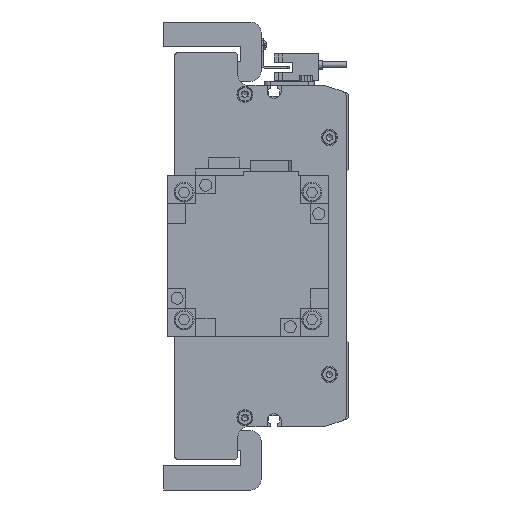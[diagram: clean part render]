
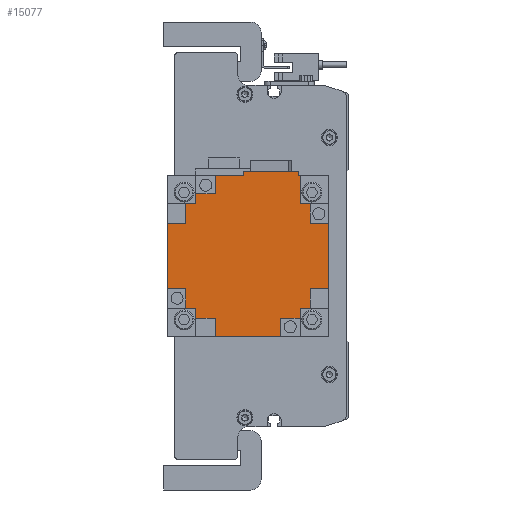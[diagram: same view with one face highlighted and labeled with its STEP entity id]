
A CAD part, left-side view. The second image highlights one B-rep face of the part: STEP entity #15077.
In plain terms, the highlighted planar face has unit normal (-1, 0, 0) as drawn and (0, 1, 0) by its records, which use the part's own axes.
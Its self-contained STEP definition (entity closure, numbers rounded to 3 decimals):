
#1516=ORIENTED_EDGE('',*,*,#5680,.T.);
#1517=ORIENTED_EDGE('',*,*,#5681,.T.);
#1518=ORIENTED_EDGE('',*,*,#5682,.T.);
#1519=ORIENTED_EDGE('',*,*,#5683,.T.);
#1520=ORIENTED_EDGE('',*,*,#5684,.T.);
#1521=ORIENTED_EDGE('',*,*,#5685,.F.);
#1522=ORIENTED_EDGE('',*,*,#5686,.F.);
#1523=ORIENTED_EDGE('',*,*,#5687,.T.);
#1524=ORIENTED_EDGE('',*,*,#5688,.T.);
#1525=ORIENTED_EDGE('',*,*,#5689,.T.);
#1526=ORIENTED_EDGE('',*,*,#5690,.T.);
#1527=ORIENTED_EDGE('',*,*,#5691,.T.);
#1528=ORIENTED_EDGE('',*,*,#5692,.F.);
#1529=ORIENTED_EDGE('',*,*,#5693,.F.);
#1530=ORIENTED_EDGE('',*,*,#5694,.T.);
#1531=ORIENTED_EDGE('',*,*,#5695,.T.);
#1532=ORIENTED_EDGE('',*,*,#5696,.T.);
#1533=ORIENTED_EDGE('',*,*,#5697,.T.);
#1534=ORIENTED_EDGE('',*,*,#5698,.T.);
#1535=ORIENTED_EDGE('',*,*,#5699,.F.);
#1536=ORIENTED_EDGE('',*,*,#5700,.F.);
#1537=ORIENTED_EDGE('',*,*,#5671,.T.);
#1538=ORIENTED_EDGE('',*,*,#5701,.F.);
#1539=ORIENTED_EDGE('',*,*,#5662,.F.);
#1540=ORIENTED_EDGE('',*,*,#5702,.T.);
#1541=ORIENTED_EDGE('',*,*,#5677,.T.);
#1542=ORIENTED_EDGE('',*,*,#5703,.T.);
#1543=ORIENTED_EDGE('',*,*,#5704,.T.);
#1544=ORIENTED_EDGE('',*,*,#5705,.F.);
#1545=ORIENTED_EDGE('',*,*,#5706,.F.);
#5662=EDGE_CURVE('',#7776,#7777,#9306,.T.);
#5671=EDGE_CURVE('',#7786,#7784,#9315,.T.);
#5677=EDGE_CURVE('',#7792,#7791,#9321,.T.);
#5680=EDGE_CURVE('',#7794,#7795,#9324,.T.);
#5681=EDGE_CURVE('',#7795,#7796,#9325,.T.);
#5682=EDGE_CURVE('',#7796,#7797,#9326,.T.);
#5683=EDGE_CURVE('',#7797,#7798,#9327,.T.);
#5684=EDGE_CURVE('',#7798,#7799,#9328,.T.);
#5685=EDGE_CURVE('',#7800,#7799,#9329,.T.);
#5686=EDGE_CURVE('',#7801,#7800,#9330,.T.);
#5687=EDGE_CURVE('',#7801,#7802,#9331,.T.);
#5688=EDGE_CURVE('',#7802,#7803,#9332,.T.);
#5689=EDGE_CURVE('',#7803,#7804,#9333,.T.);
#5690=EDGE_CURVE('',#7804,#7805,#9334,.T.);
#5691=EDGE_CURVE('',#7805,#7806,#9335,.T.);
#5692=EDGE_CURVE('',#7807,#7806,#9336,.T.);
#5693=EDGE_CURVE('',#7808,#7807,#9337,.T.);
#5694=EDGE_CURVE('',#7808,#7809,#9338,.T.);
#5695=EDGE_CURVE('',#7809,#7810,#9339,.T.);
#5696=EDGE_CURVE('',#7810,#7811,#9340,.T.);
#5697=EDGE_CURVE('',#7811,#7812,#9341,.T.);
#5698=EDGE_CURVE('',#7812,#7813,#9342,.T.);
#5699=EDGE_CURVE('',#7814,#7813,#9343,.T.);
#5700=EDGE_CURVE('',#7786,#7814,#9344,.T.);
#5701=EDGE_CURVE('',#7777,#7784,#9345,.T.);
#5702=EDGE_CURVE('',#7776,#7792,#9346,.T.);
#5703=EDGE_CURVE('',#7791,#7815,#9347,.T.);
#5704=EDGE_CURVE('',#7815,#7816,#9348,.T.);
#5705=EDGE_CURVE('',#7817,#7816,#9349,.T.);
#5706=EDGE_CURVE('',#7794,#7817,#9350,.T.);
#7776=VERTEX_POINT('',#22426);
#7777=VERTEX_POINT('',#22427);
#7784=VERTEX_POINT('',#22443);
#7786=VERTEX_POINT('',#22446);
#7791=VERTEX_POINT('',#22456);
#7792=VERTEX_POINT('',#22458);
#7794=VERTEX_POINT('',#22464);
#7795=VERTEX_POINT('',#22465);
#7796=VERTEX_POINT('',#22467);
#7797=VERTEX_POINT('',#22469);
#7798=VERTEX_POINT('',#22471);
#7799=VERTEX_POINT('',#22473);
#7800=VERTEX_POINT('',#22475);
#7801=VERTEX_POINT('',#22477);
#7802=VERTEX_POINT('',#22479);
#7803=VERTEX_POINT('',#22481);
#7804=VERTEX_POINT('',#22483);
#7805=VERTEX_POINT('',#22485);
#7806=VERTEX_POINT('',#22487);
#7807=VERTEX_POINT('',#22489);
#7808=VERTEX_POINT('',#22491);
#7809=VERTEX_POINT('',#22493);
#7810=VERTEX_POINT('',#22495);
#7811=VERTEX_POINT('',#22497);
#7812=VERTEX_POINT('',#22499);
#7813=VERTEX_POINT('',#22501);
#7814=VERTEX_POINT('',#22503);
#7815=VERTEX_POINT('',#22508);
#7816=VERTEX_POINT('',#22510);
#7817=VERTEX_POINT('',#22512);
#9306=LINE('',#22425,#10782);
#9315=LINE('',#22445,#10791);
#9321=LINE('',#22457,#10797);
#9324=LINE('',#22463,#10800);
#9325=LINE('',#22466,#10801);
#9326=LINE('',#22468,#10802);
#9327=LINE('',#22470,#10803);
#9328=LINE('',#22472,#10804);
#9329=LINE('',#22474,#10805);
#9330=LINE('',#22476,#10806);
#9331=LINE('',#22478,#10807);
#9332=LINE('',#22480,#10808);
#9333=LINE('',#22482,#10809);
#9334=LINE('',#22484,#10810);
#9335=LINE('',#22486,#10811);
#9336=LINE('',#22488,#10812);
#9337=LINE('',#22490,#10813);
#9338=LINE('',#22492,#10814);
#9339=LINE('',#22494,#10815);
#9340=LINE('',#22496,#10816);
#9341=LINE('',#22498,#10817);
#9342=LINE('',#22500,#10818);
#9343=LINE('',#22502,#10819);
#9344=LINE('',#22504,#10820);
#9345=LINE('',#22505,#10821);
#9346=LINE('',#22506,#10822);
#9347=LINE('',#22507,#10823);
#9348=LINE('',#22509,#10824);
#9349=LINE('',#22511,#10825);
#9350=LINE('',#22513,#10826);
#10782=VECTOR('',#17878,1000.);
#10791=VECTOR('',#17889,1000.);
#10797=VECTOR('',#17895,1000.);
#10800=VECTOR('',#17900,1000.);
#10801=VECTOR('',#17901,1000.);
#10802=VECTOR('',#17902,1000.);
#10803=VECTOR('',#17903,1000.);
#10804=VECTOR('',#17904,1000.);
#10805=VECTOR('',#17905,1000.);
#10806=VECTOR('',#17906,1000.);
#10807=VECTOR('',#17907,1000.);
#10808=VECTOR('',#17908,1000.);
#10809=VECTOR('',#17909,1000.);
#10810=VECTOR('',#17910,1000.);
#10811=VECTOR('',#17911,1000.);
#10812=VECTOR('',#17912,1000.);
#10813=VECTOR('',#17913,1000.);
#10814=VECTOR('',#17914,1000.);
#10815=VECTOR('',#17915,1000.);
#10816=VECTOR('',#17916,1000.);
#10817=VECTOR('',#17917,1000.);
#10818=VECTOR('',#17918,1000.);
#10819=VECTOR('',#17919,1000.);
#10820=VECTOR('',#17920,1000.);
#10821=VECTOR('',#17921,1000.);
#10822=VECTOR('',#17922,1000.);
#10823=VECTOR('',#17923,1000.);
#10824=VECTOR('',#17924,1000.);
#10825=VECTOR('',#17925,1000.);
#10826=VECTOR('',#17926,1000.);
#12202=EDGE_LOOP('',(#1516,#1517,#1518,#1519,#1520,#1521,#1522,#1523,#1524,
#1525,#1526,#1527,#1528,#1529,#1530,#1531,#1532,#1533,#1534,#1535,#1536,
#1537,#1538,#1539,#1540,#1541,#1542,#1543,#1544,#1545));
#13358=FACE_BOUND('',#12202,.T.);
#14501=PLANE('',#16093);
#15077=ADVANCED_FACE('',(#13358),#14501,.T.);
#16093=AXIS2_PLACEMENT_3D('',#22462,#17898,#17899);
#17878=DIRECTION('',(0.,0.,1.));
#17889=DIRECTION('',(0.,0.,-1.));
#17895=DIRECTION('',(0.,0.,-1.));
#17898=DIRECTION('',(0.,1.,0.));
#17899=DIRECTION('',(0.,0.,1.));
#17900=DIRECTION('',(-1.,0.,0.));
#17901=DIRECTION('',(0.,0.,-1.));
#17902=DIRECTION('',(-1.,0.,0.));
#17903=DIRECTION('',(0.,0.,1.));
#17904=DIRECTION('',(-1.,0.,0.));
#17905=DIRECTION('',(0.,0.,-1.));
#17906=DIRECTION('',(1.,0.,0.));
#17907=DIRECTION('',(0.,0.,1.));
#17908=DIRECTION('',(-1.,0.,0.));
#17909=DIRECTION('',(0.,0.,1.));
#17910=DIRECTION('',(1.,0.,0.));
#17911=DIRECTION('',(0.,0.,1.));
#17912=DIRECTION('',(-1.,0.,0.));
#17913=DIRECTION('',(0.,0.,-1.));
#17914=DIRECTION('',(1.,0.,0.));
#17915=DIRECTION('',(0.,0.,1.));
#17916=DIRECTION('',(1.,0.,0.));
#17917=DIRECTION('',(0.,0.,-1.));
#17918=DIRECTION('',(1.,0.,0.));
#17919=DIRECTION('',(0.,0.,1.));
#17920=DIRECTION('',(-1.,0.,0.));
#17921=DIRECTION('',(-1.,0.,0.));
#17922=DIRECTION('',(-1.,0.,0.));
#17923=DIRECTION('',(-1.,0.,0.));
#17924=DIRECTION('',(0.,0.,-1.));
#17925=DIRECTION('',(1.,0.,0.));
#17926=DIRECTION('',(0.,0.,1.));
#22425=CARTESIAN_POINT('',(42.,138.3,-2.2));
#22426=CARTESIAN_POINT('',(42.,138.3,-2.2));
#22427=CARTESIAN_POINT('',(42.,138.3,25.2));
#22443=CARTESIAN_POINT('',(39.95,138.3,25.2));
#22445=CARTESIAN_POINT('',(39.95,138.3,39.95));
#22446=CARTESIAN_POINT('',(39.95,138.3,25.95));
#22456=CARTESIAN_POINT('',(39.95,138.3,-16.35));
#22457=CARTESIAN_POINT('',(39.95,138.3,39.95));
#22458=CARTESIAN_POINT('',(39.95,138.3,-2.2));
#22462=CARTESIAN_POINT('',(0.,138.3,0.));
#22463=CARTESIAN_POINT('',(0.,138.3,-30.95));
#22464=CARTESIAN_POINT('',(25.95,138.3,-30.95));
#22465=CARTESIAN_POINT('',(16.35,138.3,-30.95));
#22466=CARTESIAN_POINT('',(16.35,138.3,0.));
#22467=CARTESIAN_POINT('',(16.35,138.3,-39.95));
#22468=CARTESIAN_POINT('',(39.95,138.3,-39.95));
#22469=CARTESIAN_POINT('',(-16.35,138.3,-39.95));
#22470=CARTESIAN_POINT('',(-16.35,138.3,0.));
#22471=CARTESIAN_POINT('',(-16.35,138.3,-30.95));
#22472=CARTESIAN_POINT('',(0.,138.3,-30.95));
#22473=CARTESIAN_POINT('',(-25.95,138.3,-30.95));
#22474=CARTESIAN_POINT('',(-25.95,138.3,0.));
#22475=CARTESIAN_POINT('',(-25.95,138.3,-25.95));
#22476=CARTESIAN_POINT('',(0.,138.3,-25.95));
#22477=CARTESIAN_POINT('',(-30.95,138.3,-25.95));
#22478=CARTESIAN_POINT('',(-30.95,138.3,0.));
#22479=CARTESIAN_POINT('',(-30.95,138.3,-16.35));
#22480=CARTESIAN_POINT('',(0.,138.3,-16.35));
#22481=CARTESIAN_POINT('',(-39.95,138.3,-16.35));
#22482=CARTESIAN_POINT('',(-39.95,138.3,-39.95));
#22483=CARTESIAN_POINT('',(-39.95,138.3,16.35));
#22484=CARTESIAN_POINT('',(0.,138.3,16.35));
#22485=CARTESIAN_POINT('',(-30.95,138.3,16.35));
#22486=CARTESIAN_POINT('',(-30.95,138.3,0.));
#22487=CARTESIAN_POINT('',(-30.95,138.3,25.95));
#22488=CARTESIAN_POINT('',(0.,138.3,25.95));
#22489=CARTESIAN_POINT('',(-25.95,138.3,25.95));
#22490=CARTESIAN_POINT('',(-25.95,138.3,0.));
#22491=CARTESIAN_POINT('',(-25.95,138.3,30.95));
#22492=CARTESIAN_POINT('',(0.,138.3,30.95));
#22493=CARTESIAN_POINT('',(-16.35,138.3,30.95));
#22494=CARTESIAN_POINT('',(-16.35,138.3,0.));
#22495=CARTESIAN_POINT('',(-16.35,138.3,39.95));
#22496=CARTESIAN_POINT('',(-39.95,138.3,39.95));
#22497=CARTESIAN_POINT('',(16.35,138.3,39.95));
#22498=CARTESIAN_POINT('',(16.35,138.3,0.));
#22499=CARTESIAN_POINT('',(16.35,138.3,30.95));
#22500=CARTESIAN_POINT('',(0.,138.3,30.95));
#22501=CARTESIAN_POINT('',(25.95,138.3,30.95));
#22502=CARTESIAN_POINT('',(25.95,138.3,0.));
#22503=CARTESIAN_POINT('',(25.95,138.3,25.95));
#22504=CARTESIAN_POINT('',(0.,138.3,25.95));
#22505=CARTESIAN_POINT('',(42.,138.3,25.2));
#22506=CARTESIAN_POINT('',(42.,138.3,-2.2));
#22507=CARTESIAN_POINT('',(0.,138.3,-16.35));
#22508=CARTESIAN_POINT('',(30.95,138.3,-16.35));
#22509=CARTESIAN_POINT('',(30.95,138.3,0.));
#22510=CARTESIAN_POINT('',(30.95,138.3,-25.95));
#22511=CARTESIAN_POINT('',(0.,138.3,-25.95));
#22512=CARTESIAN_POINT('',(25.95,138.3,-25.95));
#22513=CARTESIAN_POINT('',(25.95,138.3,0.));
